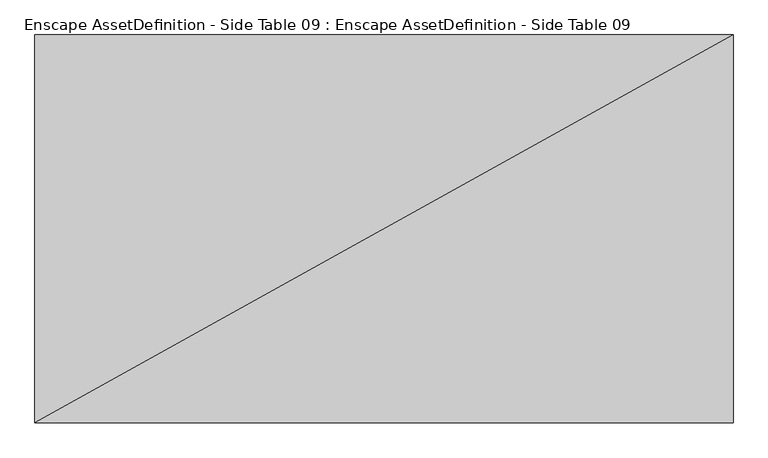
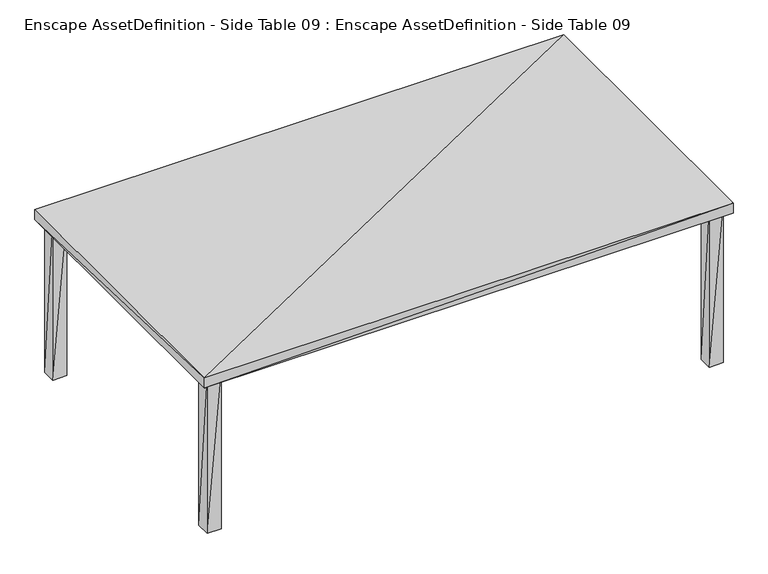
"""IFC4 building model written with IfcOpenShell, lengths in millimetres: geographic element geometry, Enscape AssetDefinition - Side Table 09 : Enscape AssetDefinition - Side Table 09."""

from ifc_helpers import new_model, si_unit, origin, place, context, project, spatial, faceted_brep, source, transform, mapped, element, save


def enscape_assetdefinition_side_table_09_enscape_f6d087d9(model_context):
    return source(origin(), model_context, "Body", "Brep", [
        faceted_brep([(620.6910014, 344.8469043, 399.9289572), (-620.6882596, -344.8082805, 399.9289572), (620.6910014, -344.8082805, 399.9289572), (-620.6882596, -344.8082805, 375.791043), (-620.6882596, 344.8469043, 375.791043), (-620.6882596, 344.8469043, 399.9289572), (620.6910014, -344.8082805, 375.791043), (620.6910014, 344.8469043, 375.791043)], [[[0, 1, 2]], [[3, 2, 1]], [[4, 1, 5]], [[1, 0, 5]], [[1, 4, 3]], [[6, 0, 2]], [[2, 3, 6]], [[7, 5, 0]], [[0, 6, 7]], [[5, 7, 4]], [[6, 4, 7]], [[4, 6, 3]]]),
        faceted_brep([(606.3807011, -330.4979205, 388.2593215), (573.1047988, -330.3255141, 0.0), (606.2082648, -330.3255141, 0.0), (572.9324222, -330.4979205, 388.2593215), (573.1047988, -297.222048, 0.0), (606.2082648, -297.222048, 0.0), (606.3807011, -297.0496714, 388.2593215), (572.9324222, -297.0496714, 388.2593215)], [[[0, 1, 2]], [[3, 4, 1]], [[1, 5, 2]], [[1, 0, 3]], [[5, 1, 4]], [[6, 2, 5]], [[2, 6, 0]], [[3, 0, 6]], [[4, 3, 7]], [[3, 6, 7]], [[7, 5, 4]], [[5, 7, 6]]]),
        faceted_brep([(606.3807011, 297.0882654, 388.2593215), (573.1047988, 297.2606719, 0.0), (606.2082648, 297.2606719, 0.0), (572.9324222, 297.0882654, 388.2593215), (573.1047988, 330.3641379, 0.0), (606.2082648, 330.3641379, 0.0), (606.3807011, 330.5365443, 388.2593215), (572.9324222, 330.5365443, 388.2593215)], [[[0, 1, 2]], [[3, 4, 1]], [[1, 5, 2]], [[1, 0, 3]], [[5, 1, 4]], [[6, 2, 5]], [[2, 6, 0]], [[3, 0, 6]], [[4, 3, 7]], [[3, 6, 7]], [[7, 5, 4]], [[5, 7, 6]]]),
        faceted_brep([(-572.9296207, 297.0882654, 388.2593215), (-606.205523, 297.2606719, 0.0), (-573.102057, 297.2606719, 0.0), (-606.3778996, 297.0882654, 388.2593215), (-606.205523, 330.3641379, 0.0), (-573.102057, 330.3641379, 0.0), (-572.9296207, 330.5365443, 388.2593215), (-606.3778996, 330.5365443, 388.2593215)], [[[0, 1, 2]], [[3, 4, 1]], [[1, 5, 2]], [[1, 0, 3]], [[5, 1, 4]], [[6, 2, 5]], [[2, 6, 0]], [[3, 0, 6]], [[4, 3, 7]], [[3, 6, 7]], [[7, 5, 4]], [[5, 7, 6]]]),
        faceted_brep([(-572.9296207, -330.4979205, 388.2593215), (-606.205523, -330.3255141, 0.0), (-573.102057, -330.3255141, 0.0), (-606.3778996, -330.4979205, 388.2593215), (-606.205523, -297.222048, 0.0), (-573.102057, -297.222048, 0.0), (-572.9296207, -297.0496714, 388.2593215), (-606.3778996, -297.0496714, 388.2593215)], [[[0, 1, 2]], [[3, 4, 1]], [[1, 5, 2]], [[1, 0, 3]], [[5, 1, 4]], [[6, 2, 5]], [[2, 6, 0]], [[3, 0, 6]], [[4, 3, 7]], [[3, 6, 7]], [[7, 5, 4]], [[5, 7, 6]]]),
    ])


if __name__ == "__main__":
    model = new_model("IFC4")
    model_context = context("Model", 3, world=origin())
    ifc_project = project(units=[si_unit("LENGTHUNIT", "METRE", prefix="MILLI")], contexts=[model_context])
    site = spatial("IfcSite", under=ifc_project)
    building = spatial("IfcBuilding", under=site)
    placement = place(None, origin())
    enscape_assetdefinition_side_table_09_enscape_shape = enscape_assetdefinition_side_table_09_enscape_f6d087d9(model_context)
    element("IfcGeographicElement", 1, ObjectType="Enscape AssetDefinition - Side Table 09 : Enscape AssetDefinition - Side Table 09", at=placement, inside=building, context=model_context, shape_type="MappedRepresentation", body=[
        mapped(enscape_assetdefinition_side_table_09_enscape_shape, transform((0.0, 0.0, 0.0), x_axis=(1.0, 0.0, 0.0), y_axis=(0.0, 1.0, 0.0), z_axis=(0.0, 0.0, 1.0))),
    ])
    save(model, "model.ifc")
